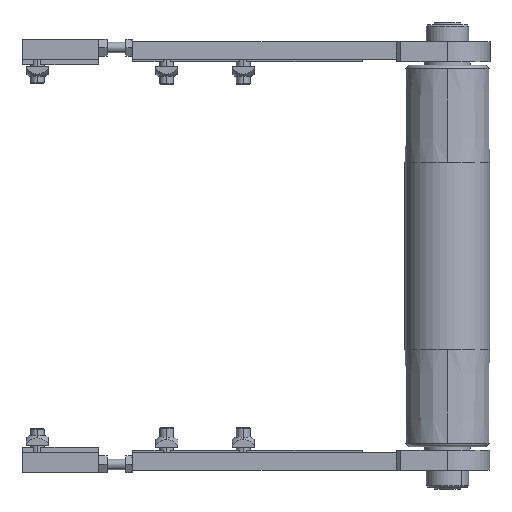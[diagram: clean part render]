
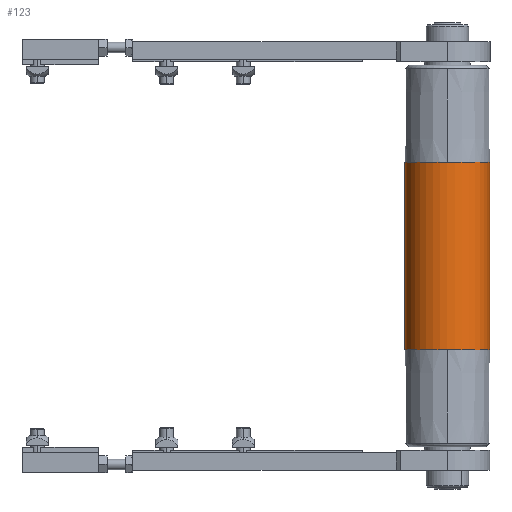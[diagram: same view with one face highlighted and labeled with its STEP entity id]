
A CAD part, front view. The second image highlights one B-rep face of the part: STEP entity #123.
In plain terms, the highlighted cylindrical face has radius 25 mm (diameter 50 mm), a partial arc.
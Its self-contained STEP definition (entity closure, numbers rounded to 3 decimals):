
#123 = ADVANCED_FACE ( 'NONE', ( #4862 ), #4871, .T. ) ;
#317 = DIRECTION ( 'NONE',  ( -1., 0., 0. ) ) ;
#337 = VERTEX_POINT ( 'NONE', #5955 ) ;
#339 = VERTEX_POINT ( 'NONE', #5957 ) ;
#696 = EDGE_LOOP ( 'NONE', ( #4319, #4320, #4321, #4322, #4323, #4324 ) ) ;
#1486 = CARTESIAN_POINT ( 'NONE',  ( 110., 0., 0. ) ) ;
#1763 = DIRECTION ( 'NONE',  ( 0., 0., 1. ) ) ;
#1814 = CIRCLE ( 'NONE', #10633, 25. ) ;
#1822 = CIRCLE ( 'NONE', #10637, 25. ) ;
#1860 = CIRCLE ( 'NONE', #10650, 25. ) ;
#1862 = LINE ( 'NONE', #8275, #1864 ) ;
#1863 = CIRCLE ( 'NONE', #10651, 25. ) ;
#1864 = VECTOR ( 'NONE', #8276, 1000. ) ;
#1865 = LINE ( 'NONE', #8280, #1867 ) ;
#1867 = VECTOR ( 'NONE', #8281, 1000. ) ;
#2526 = VERTEX_POINT ( 'NONE', #6495 ) ;
#2586 = VERTEX_POINT ( 'NONE', #6489 ) ;
#2661 = VERTEX_POINT ( 'NONE', #6486 ) ;
#3299 = AXIS2_PLACEMENT_3D ( 'NONE', #1486, #317, #1763 ) ;
#4319 = ORIENTED_EDGE ( 'NONE', *, *, #9254, .T. ) ;
#4320 = ORIENTED_EDGE ( 'NONE', *, *, #9286, .T. ) ;
#4321 = ORIENTED_EDGE ( 'NONE', *, *, #9287, .T. ) ;
#4322 = ORIENTED_EDGE ( 'NONE', *, *, #9288, .F. ) ;
#4323 = ORIENTED_EDGE ( 'NONE', *, *, #9260, .F. ) ;
#4324 = ORIENTED_EDGE ( 'NONE', *, *, #9289, .F. ) ;
#4862 = FACE_OUTER_BOUND ( 'NONE', #696, .T. ) ;
#4871 = CYLINDRICAL_SURFACE ( 'NONE', #3299, 25. ) ;
#5955 = CARTESIAN_POINT ( 'NONE',  ( 55., 0., -25. ) ) ;
#5957 = CARTESIAN_POINT ( 'NONE',  ( -55., 0., -25. ) ) ;
#6486 = CARTESIAN_POINT ( 'NONE',  ( 55., 0., 25. ) ) ;
#6489 = CARTESIAN_POINT ( 'NONE',  ( -55., 25., 0. ) ) ;
#6495 = CARTESIAN_POINT ( 'NONE',  ( 55., 25., 0. ) ) ;
#6498 = CARTESIAN_POINT ( 'NONE',  ( -55., 0., 25. ) ) ;
#8199 = CARTESIAN_POINT ( 'NONE',  ( 55., 0., 0. ) ) ;
#8200 = DIRECTION ( 'NONE',  ( -1., 0., 0. ) ) ;
#8201 = DIRECTION ( 'NONE',  ( 0., -1., 0. ) ) ;
#8217 = CARTESIAN_POINT ( 'NONE',  ( -55., 0., 0. ) ) ;
#8218 = DIRECTION ( 'NONE',  ( -1., 0., 0. ) ) ;
#8219 = DIRECTION ( 'NONE',  ( 0., -1., 0. ) ) ;
#8275 = CARTESIAN_POINT ( 'NONE',  ( 110., 0., -25. ) ) ;
#8276 = DIRECTION ( 'NONE',  ( -1., 0., 0. ) ) ;
#8280 = CARTESIAN_POINT ( 'NONE',  ( 110., 0., 25. ) ) ;
#8281 = DIRECTION ( 'NONE',  ( -1., 0., 0. ) ) ;
#8282 = CARTESIAN_POINT ( 'NONE',  ( 55., 0., 0. ) ) ;
#8283 = DIRECTION ( 'NONE',  ( -1., 0., 0. ) ) ;
#8284 = DIRECTION ( 'NONE',  ( 0., -1., 0. ) ) ;
#8285 = CARTESIAN_POINT ( 'NONE',  ( -55., 0., 0. ) ) ;
#8286 = DIRECTION ( 'NONE',  ( -1., 0., 0. ) ) ;
#8287 = DIRECTION ( 'NONE',  ( 0., -1., 0. ) ) ;
#9254 = EDGE_CURVE ( 'NONE', #2661, #2526, #1814, .T. ) ;
#9260 = EDGE_CURVE ( 'NONE', #11324, #2586, #1822, .T. ) ;
#9286 = EDGE_CURVE ( 'NONE', #2526, #337, #1860, .T. ) ;
#9287 = EDGE_CURVE ( 'NONE', #337, #339, #1862, .T. ) ;
#9288 = EDGE_CURVE ( 'NONE', #2586, #339, #1863, .T. ) ;
#9289 = EDGE_CURVE ( 'NONE', #2661, #11324, #1865, .T. ) ;
#10633 = AXIS2_PLACEMENT_3D ( 'NONE', #8199, #8200, #8201 ) ;
#10637 = AXIS2_PLACEMENT_3D ( 'NONE', #8217, #8218, #8219 ) ;
#10650 = AXIS2_PLACEMENT_3D ( 'NONE', #8282, #8283, #8284 ) ;
#10651 = AXIS2_PLACEMENT_3D ( 'NONE', #8285, #8286, #8287 ) ;
#11324 = VERTEX_POINT ( 'NONE', #6498 ) ;
